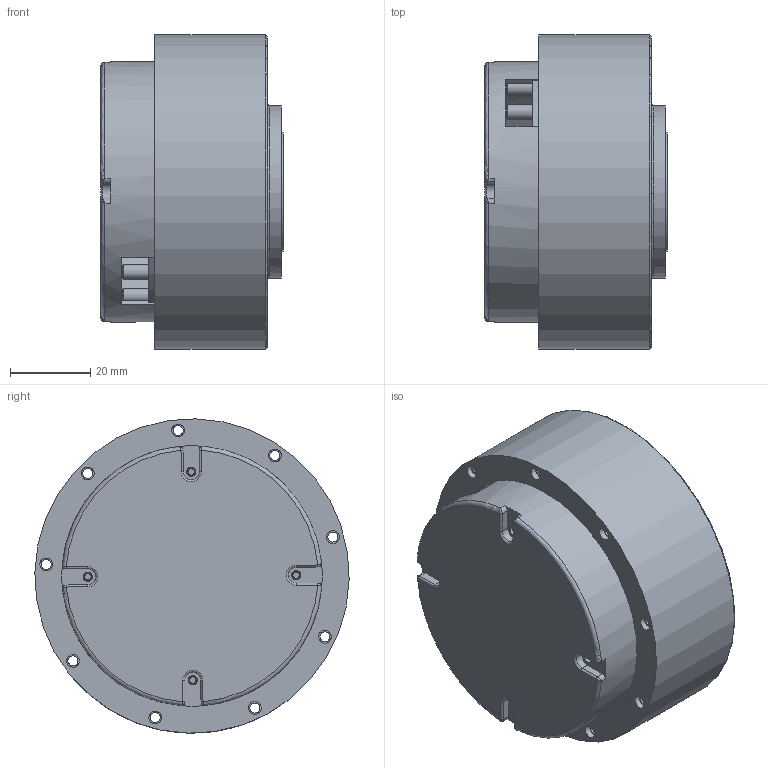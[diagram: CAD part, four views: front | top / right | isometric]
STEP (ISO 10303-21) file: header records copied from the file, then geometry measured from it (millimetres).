
FILE_DESCRIPTION(/* description */ ('STEP AP242 Edition 2','CAx-IF Rec.Pracs.---Representation and Presentation of Product Manufacturing Information (PMI)---4.0---2014-10-13','CAx-IF Rec.Pracs.---3D Tessellated Geometry---0.4---2014-09-14','2;1','CAx-IF Rec.Pracs.---User Defined Attributes---1.5---2016-08-15'),/* implementation_level */ '2;1');
FILE_NAME(/* name */ 'Assy_ForMFG - L_Elbw_Pitch_RS02',/* time_stamp */ '2026-05-15T19:56:47Z',/* author */ (''),/* organization */ (''),/* preprocessor_version */ 'ST-DEVELOPER v20',/* originating_system */ 'ONSHAPE BY PTC INC, 1.215',/* authorisation */ ' ');
FILE_SCHEMA (('AP242_MANAGED_MODEL_BASED_3D_ENGINEERING_MIM_LF { 1 0 10303 442 3 1 4 }'));
Length unit declared in the file: metre
Products named in the file (1): L_Elbw_Pitch_RS02
Bounding box: 45.5 x 78.48 x 78.48 mm (x, y, z)
Volume: 60694 mm3; surface area: 53296.7 mm2
Topology: 1 solids, 4 shells, 454 faces, 1251 edges, 825 vertices
Faces by surface type: cylinder 212, plane 157, cone 59, torus 18, bspline 8
Full cylindrical faces by diameter (mm): 1.6 x8, 2.3 x4, 2.5 x9, 3 x3, 3.2 x9, 3.3 x8, 3.7 x8, 4 x4, 9 x1, 12.5 x1, 30 x1, 37 x2, 38.12 x1, 43 x1, 61 x1, 62 x1, 64 x1, 65 x1, 66 x1, 68.4 x1, 78.5 x1
Entity records: 14324 total; most frequent: CARTESIAN_POINT 3118, DIRECTION 2500, ORIENTED_EDGE 2156, EDGE_CURVE 1078, AXIS2_PLACEMENT_3D 1047, VERTEX_POINT 747, EDGE_LOOP 631, FACE_BOUND 631
